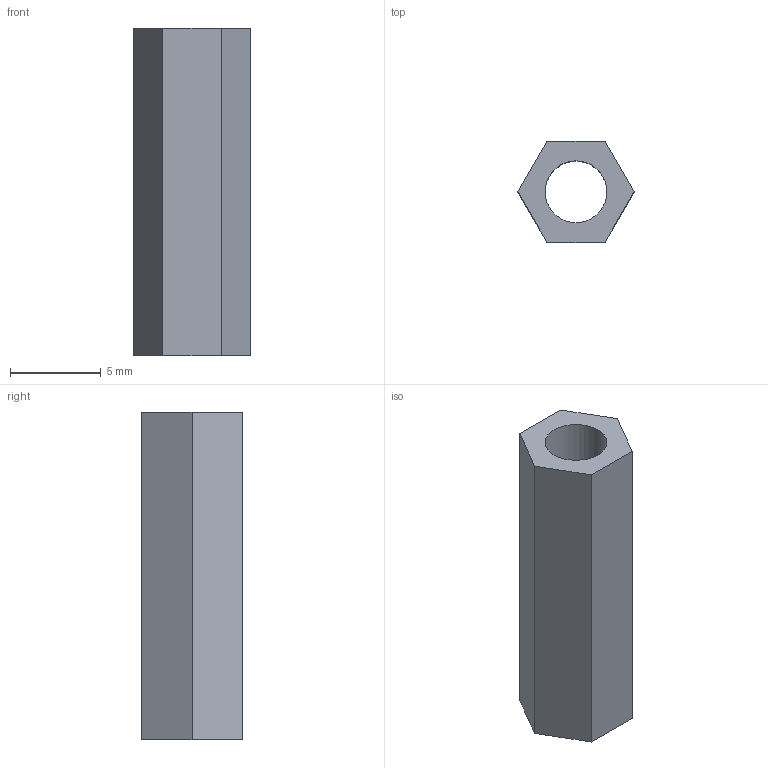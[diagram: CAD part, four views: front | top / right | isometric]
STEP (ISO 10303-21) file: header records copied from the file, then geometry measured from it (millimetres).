
FILE_DESCRIPTION(('Open CASCADE Model'),'2;1');
FILE_NAME('Open CASCADE Shape Model','2026-11-11T19:28:18',('Author'),( 'Open CASCADE'),'Open CASCADE STEP processor 7.9','Open CASCADE 7.9' ,'Unknown');
FILE_SCHEMA(('AUTOMOTIVE_DESIGN { 1 0 10303 214 1 1 1 1 }'));
Length unit declared in the file: millimetre
Products named in the file (1): Open CASCADE STEP translator 7.9 15
Bounding box: 6.4 x 5.54 x 18 mm (x, y, z)
Volume: 315.5 mm3; surface area: 572.9 mm2
Topology: 1 solids, 1 shells, 9 faces, 21 edges, 14 vertices
Faces by surface type: plane 8, cylinder 1
Full cylindrical faces by diameter (mm): 3.4 x1
Entity records: 550 total; most frequent: CARTESIAN_POINT 99, DIRECTION 83, LINE 59, VECTOR 59, ORIENTED_EDGE 42, PCURVE 42, DEFINITIONAL_REPRESENTATION 42, EDGE_CURVE 21
